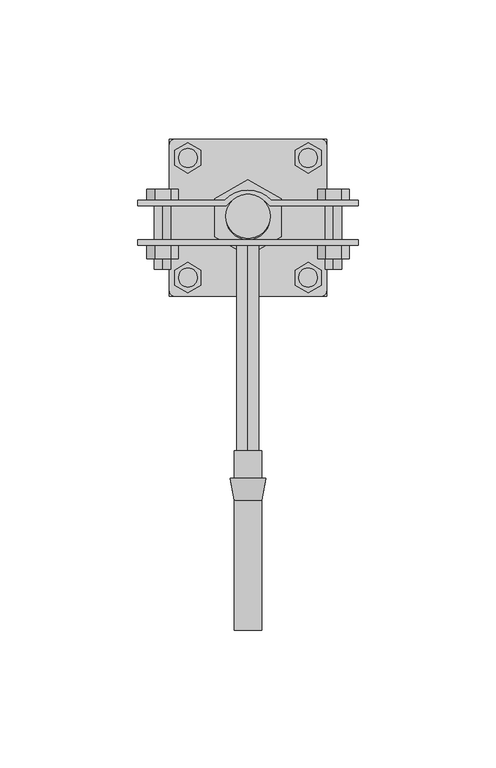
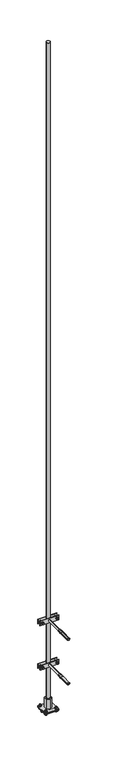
"""IFC4 building model written with IfcOpenShell, lengths in millimetres: proxy geometry, КНС_МолниеприемникСДержателями_DKC : NL7300CU_Медь_3м."""

from ifc_helpers import new_model, si_unit, point, frame, frame_2d, origin, origin_with_axes, place, context, project, spatial, polyline, circle_curve, trimmed, segment, composite_curve, outline, extrude, source, transform, mapped, element, save
from ifc_brep_helpers import plane_surface, cylinder_surface, revolved_surface, advanced_brep


def security_devices_fc05bfcb(model_context):
    return source(origin(), model_context, "Body", "SolidModel", [
        extrude(outline(composite_curve([segment(trimmed(circle_curve(frame_2d((0.0, 84.6885885)), 8.0), [point((0.0, 76.6885885))], [point((0.0, 92.6885885))], False, "CARTESIAN"), True, "CONTINUOUS"), segment(trimmed(circle_curve(frame_2d((0.0, 84.6885885)), 8.0), [point((0.0, 92.6885885))], [point((0.0, 76.6885885))], False, "CARTESIAN"), True, "CONTINUOUS")], self_intersect=False)), frame((0.0, 0.0, 2.5), z_axis=(0.0, 0.0, 1.0), x_axis=(1.0, 0.0, 0.0)), (0.0, 0.0, 1.0), 45.0),
        extrude(outline(composite_curve([segment(polyline([(56.1885885, -3.5), (56.1885885, -1.0), (79.6885885, -1.0)]), True, "CONTINUOUS"), segment(trimmed(circle_curve(frame_2d((84.6885885, -1.0)), 5.0), [point((79.6885885, -1.0))], [point((89.6885885, -1.0))], True, "CARTESIAN"), True, "CONTINUOUS"), segment(polyline([(89.6885885, -1.0), (113.1885885, -1.0), (113.1885885, -3.5), (91.7596563, -3.5)]), True, "CONTINUOUS"), segment(trimmed(circle_curve(frame_2d((84.6885885, -1.0)), 7.5), [point((91.7596563, -3.5))], [point((77.6175207, -3.5))], False, "CARTESIAN"), True, "CONTINUOUS"), segment(polyline([(77.6175207, -3.5), (56.1885885, -3.5)]), True, "CONTINUOUS")], self_intersect=False)), frame((-28.5, 0.0, 0.0), z_axis=(1.0, 0.0, 0.0), x_axis=(0.0, 1.0, 0.0)), (0.0, 0.0, 1.0), 57.0),
        extrude(outline(composite_curve([segment(trimmed(circle_curve(frame_2d((-21.78125, 62.9764828)), 3.4209609), [point((-21.78125, 59.5555219))], [point((-21.78125, 66.3974437))], False, "CARTESIAN"), True, "CONTINUOUS"), segment(trimmed(circle_curve(frame_2d((-21.78125, 62.9764828)), 3.4209609), [point((-21.78125, 66.3974437))], [point((-21.78125, 59.5555219))], False, "CARTESIAN"), True, "CONTINUOUS")], self_intersect=False)), frame((0.0, 0.0, -3.5), z_axis=(0.0, 0.0, 1.0), x_axis=(1.0, 0.0, 0.0)), (0.0, 0.0, 1.0), 13.5),
        extrude(outline(composite_curve([segment(trimmed(circle_curve(frame_2d((-21.78125, 106.4006942)), 3.4209609), [point((-21.78125, 102.9797333))], [point((-21.78125, 109.8216551))], False, "CARTESIAN"), True, "CONTINUOUS"), segment(trimmed(circle_curve(frame_2d((-21.78125, 106.4006942)), 3.4209609), [point((-21.78125, 109.8216551))], [point((-21.78125, 102.9797333))], False, "CARTESIAN"), True, "CONTINUOUS")], self_intersect=False)), frame((0.0, 0.0, -3.5), z_axis=(0.0, 0.0, 1.0), x_axis=(1.0, 0.0, 0.0)), (0.0, 0.0, 1.0), 13.5),
        extrude(outline(composite_curve([segment(trimmed(circle_curve(frame_2d((21.78125, 62.9764828)), 3.4209609), [point((21.78125, 59.5555219))], [point((21.78125, 66.3974437))], False, "CARTESIAN"), True, "CONTINUOUS"), segment(trimmed(circle_curve(frame_2d((21.78125, 62.9764828)), 3.4209609), [point((21.78125, 66.3974437))], [point((21.78125, 59.5555219))], False, "CARTESIAN"), True, "CONTINUOUS")], self_intersect=False)), frame((0.0, 0.0, -3.5), z_axis=(0.0, 0.0, 1.0), x_axis=(1.0, 0.0, 0.0)), (0.0, 0.0, 1.0), 13.5),
        extrude(outline(composite_curve([segment(trimmed(circle_curve(frame_2d((21.78125, 106.4006942)), 3.4209609), [point((21.78125, 102.9797333))], [point((21.78125, 109.8216551))], False, "CARTESIAN"), True, "CONTINUOUS"), segment(trimmed(circle_curve(frame_2d((21.78125, 106.4006942)), 3.4209609), [point((21.78125, 109.8216551))], [point((21.78125, 102.9797333))], False, "CARTESIAN"), True, "CONTINUOUS")], self_intersect=False)), frame((0.0, 0.0, -3.5), z_axis=(0.0, 0.0, 1.0), x_axis=(1.0, 0.0, 0.0)), (0.0, 0.0, 1.0), 13.5),
        extrude(outline(polyline([(-21.8883083, 57.4889661), (-26.6406371, 60.2327244), (-26.6406371, 65.7202411), (-21.8883083, 68.4639995), (-17.1359794, 65.7202411), (-17.1359794, 60.2327244), (-21.8883083, 57.4889661)])), frame((0.0, 0.0, 2.5), z_axis=(0.0, 0.0, 1.0), x_axis=(1.0, 0.0, 0.0)), (0.0, 0.0, 1.0), 5.0),
        extrude(outline(polyline([(-21.8883083, 111.8882109), (-17.1359794, 109.1444525), (-17.1359794, 103.6569358), (-21.8883083, 100.9131775), (-26.6406371, 103.6569358), (-26.6406371, 109.1444525), (-21.8883083, 111.8882109)])), frame((0.0, 0.0, 2.5), z_axis=(0.0, 0.0, 1.0), x_axis=(1.0, 0.0, 0.0)), (0.0, 0.0, 1.0), 5.0),
        extrude(outline(polyline([(21.8883083, 57.4889661), (17.1359794, 60.2327244), (17.1359794, 65.7202411), (21.8883083, 68.4639995), (26.6406371, 65.7202411), (26.6406371, 60.2327244), (21.8883083, 57.4889661)])), frame((0.0, 0.0, 2.5), z_axis=(0.0, 0.0, 1.0), x_axis=(1.0, 0.0, 0.0)), (0.0, 0.0, 1.0), 5.0),
        extrude(outline(polyline([(21.8883083, 111.8882109), (26.6406371, 109.1444525), (26.6406371, 103.6569358), (21.8883083, 100.9131775), (17.1359794, 103.6569358), (17.1359794, 109.1444525), (21.8883083, 111.8882109)])), frame((0.0, 0.0, 2.5), z_axis=(0.0, 0.0, 1.0), x_axis=(1.0, 0.0, 0.0)), (0.0, 0.0, 1.0), 5.0),
        extrude(outline(polyline([(-21.8883083, 57.4889661), (-26.6406371, 60.2327244), (-26.6406371, 65.7202411), (-21.8883083, 68.4639995), (-17.1359794, 65.7202411), (-17.1359794, 60.2327244), (-21.8883083, 57.4889661)])), frame((0.0, 0.0, -8.5), z_axis=(0.0, 0.0, 1.0), x_axis=(1.0, 0.0, 0.0)), (0.0, 0.0, 1.0), 5.0),
        extrude(outline(polyline([(-21.8883083, 111.8882109), (-17.1359794, 109.1444525), (-17.1359794, 103.6569358), (-21.8883083, 100.9131775), (-26.6406371, 103.6569358), (-26.6406371, 109.1444525), (-21.8883083, 111.8882109)])), frame((0.0, 0.0, -8.5), z_axis=(0.0, 0.0, 1.0), x_axis=(1.0, 0.0, 0.0)), (0.0, 0.0, 1.0), 5.0),
        extrude(outline(polyline([(21.8883083, 57.4889661), (17.1359794, 60.2327244), (17.1359794, 65.7202411), (21.8883083, 68.4639995), (26.6406371, 65.7202411), (26.6406371, 60.2327244), (21.8883083, 57.4889661)])), frame((0.0, 0.0, -8.5), z_axis=(0.0, 0.0, 1.0), x_axis=(1.0, 0.0, 0.0)), (0.0, 0.0, 1.0), 5.0),
        extrude(outline(polyline([(21.8883083, 111.8882109), (26.6406371, 109.1444525), (26.6406371, 103.6569358), (21.8883083, 100.9131775), (17.1359794, 103.6569358), (17.1359794, 109.1444525), (21.8883083, 111.8882109)])), frame((0.0, 0.0, -8.5), z_axis=(0.0, 0.0, 1.0), x_axis=(1.0, 0.0, 0.0)), (0.0, 0.0, 1.0), 5.0),
        extrude(outline(composite_curve([segment(trimmed(circle_curve(frame_2d((-26.5, 111.1885885)), 2.0), [point((-28.5, 111.1885885))], [point((-26.5, 113.1885885))], False, "CARTESIAN"), True, "CONTINUOUS"), segment(polyline([(-26.5, 113.1885885), (26.5, 113.1885885)]), True, "CONTINUOUS"), segment(trimmed(circle_curve(frame_2d((26.5, 111.1885885)), 2.0), [point((26.5, 113.1885885))], [point((28.5, 111.1885885))], False, "CARTESIAN"), True, "CONTINUOUS"), segment(polyline([(28.5, 111.1885885), (28.5, 58.1885885)]), True, "CONTINUOUS"), segment(trimmed(circle_curve(frame_2d((26.5, 58.1885885)), 2.0), [point((28.5, 58.1885885))], [point((26.5, 56.1885885))], False, "CARTESIAN"), True, "CONTINUOUS"), segment(polyline([(26.5, 56.1885885), (-26.5, 56.1885885)]), True, "CONTINUOUS"), segment(trimmed(circle_curve(frame_2d((-26.5, 58.1885885)), 2.0), [point((-26.5, 56.1885885))], [point((-28.5, 58.1885885))], False, "CARTESIAN"), True, "CONTINUOUS"), segment(polyline([(-28.5, 58.1885885), (-28.5, 111.1885885)]), True, "CONTINUOUS")], self_intersect=False)), origin_with_axes(), (0.0, 0.0, 1.0), 2.5),
        advanced_brep(
        [(-40.0, 74.6885885, 410.0), (40.0, 74.6885885, 410.0), (40.0, 76.6885885, 410.0), (-40.0, 76.6885885, 410.0), (-40.0, 74.6885885, 390.0), (-40.0, 76.6885885, 390.0), (40.0, 76.6885885, 390.0), (40.0, 74.6885885, 390.0), (0.0, 74.6885885, 404.0), (0.0, 74.6885885, 396.0), (0.0, -65.0, 396.0), (0.0, -65.0, 404.0)],
        [
            (0, 1),
            (1, 2),
            (2, 3),
            (3, 0),
            (4, 5),
            (5, 6),
            (6, 7),
            (7, 4),
            (0, 4),
            (7, 1),
            (8, 9, circle_curve(frame((0.0, 74.6885885, 400.0), z_axis=(0.0, 1.0, 0.0), x_axis=(0.0, 0.0, 1.0)), 4.0)),
            (9, 8, circle_curve(frame((0.0, 74.6885885, 400.0), z_axis=(0.0, 1.0, 0.0), x_axis=(0.0, 0.0, 1.0)), 4.0)),
            (6, 2),
            (5, 3),
            (10, 11, circle_curve(frame((0.0, -65.0, 400.0), z_axis=(0.0, -1.0, 0.0), x_axis=(0.0, 0.0, 1.0)), 4.0)),
            (11, 10, circle_curve(frame((0.0, -65.0, 400.0), z_axis=(0.0, -1.0, 0.0), x_axis=(0.0, 0.0, 1.0)), 4.0)),
            (10, 9),
            (8, 11),
        ],
        [
            plane_surface(frame((-40.0, 74.6885885, 410.0), z_axis=(0.0, 0.0, 1.0), x_axis=(1.0, 0.0, 0.0))),
            plane_surface(frame((-40.0, 74.6885885, 390.0), z_axis=(0.0, 0.0, -1.0), x_axis=(-1.0, 0.0, 0.0))),
            plane_surface(frame((-40.0, 74.6885885, 410.0), z_axis=(0.0, -1.0, 0.0), x_axis=(0.0, 0.0, -1.0))),
            plane_surface(frame((40.0, 74.6885885, 410.0), z_axis=(1.0, 0.0, 0.0), x_axis=(0.0, 0.0, -1.0))),
            plane_surface(frame((40.0, 76.6885885, 410.0), z_axis=(0.0, 1.0, 0.0), x_axis=(0.0, 0.0, -1.0))),
            plane_surface(frame((-40.0, 76.6885885, 410.0), z_axis=(-1.0, 0.0, 0.0), x_axis=(0.0, 0.0, -1.0))),
            plane_surface(frame((0.0, -65.0, 404.0), z_axis=(0.0, -1.0, 0.0), x_axis=(-1.0, 0.0, 0.0))),
            cylinder_surface(frame((0.0, 76.6885885, 400.0), z_axis=(0.0, -1.0, 0.0), x_axis=(0.0, 0.0, 1.0)), 4.0),
        ],
        [
            (0, [[1, 2, 3, 4]]),
            (1, [[5, 6, 7, 8]]),
            (2, [[-1, 9, -8, 10], [11, 12]]),
            (3, [[-2, -10, -7, 13]]),
            (4, [[-3, -13, -6, 14]]),
            (5, [[-4, -14, -5, -9]]),
            (6, [[15, 16]]),
            (7, [[-15, 17, -11, 18]]),
            (7, [[-16, -18, -12, -17]]),
        ],
    ),
        advanced_brep(
        [(6.3810583, -10.0, 400.0), (-6.3810583, -10.0, 400.0), (-5.0, -10.0, 400.0), (5.0, -10.0, 400.0), (5.0, -17.8323707, 400.0), (-5.0, -17.8323707, 400.0), (5.0, -65.0, 400.0), (-5.0, -65.0, 400.0), (3.0, -65.0, 400.0), (-3.0, -65.0, 400.0), (3.0, 0.0, 400.0), (-3.0, 0.0, 400.0), (5.0, 0.0, 400.0), (-5.0, 0.0, 400.0)],
        [
            (0, 1, circle_curve(frame((0.0, -10.0, 400.0), z_axis=(0.0, 1.0, 0.0), x_axis=(-1.0, 0.0, 0.0)), 6.3810583)),
            (1, 2),
            (2, 3, circle_curve(frame((0.0, -10.0, 400.0), z_axis=(0.0, -1.0, 0.0), x_axis=(-1.0, 0.0, 0.0)), 5.0)),
            (3, 0),
            (1, 0, circle_curve(frame((0.0, -10.0, 400.0), z_axis=(0.0, 1.0, 0.0), x_axis=(-1.0, 0.0, 0.0)), 6.3810583)),
            (3, 2, circle_curve(frame((0.0, -10.0, 400.0), z_axis=(0.0, -1.0, 0.0), x_axis=(-1.0, 0.0, 0.0)), 5.0)),
            (4, 5, circle_curve(frame((0.0, -17.8323707, 400.0), z_axis=(0.0, 1.0, 0.0), x_axis=(-1.0, 0.0, 0.0)), 5.0)),
            (5, 1),
            (0, 4),
            (5, 4, circle_curve(frame((0.0, -17.8323707, 400.0), z_axis=(0.0, 1.0, 0.0), x_axis=(-1.0, 0.0, 0.0)), 5.0)),
            (6, 7, circle_curve(frame((0.0, -65.0, 400.0), z_axis=(0.0, 1.0, 0.0), x_axis=(-1.0, 0.0, 0.0)), 5.0)),
            (7, 5),
            (4, 6),
            (7, 6, circle_curve(frame((0.0, -65.0, 400.0), z_axis=(0.0, 1.0, 0.0), x_axis=(-1.0, 0.0, 0.0)), 5.0)),
            (8, 9, circle_curve(frame((0.0, -65.0, 400.0), z_axis=(0.0, 1.0, 0.0), x_axis=(-1.0, 0.0, 0.0)), 3.0)),
            (9, 7),
            (6, 8),
            (9, 8, circle_curve(frame((0.0, -65.0, 400.0), z_axis=(0.0, 1.0, 0.0), x_axis=(-1.0, 0.0, 0.0)), 3.0)),
            (10, 11, circle_curve(frame((0.0, 0.0, 400.0), z_axis=(0.0, 1.0, 0.0), x_axis=(-1.0, 0.0, 0.0)), 3.0)),
            (11, 9),
            (8, 10),
            (11, 10, circle_curve(frame((0.0, 0.0, 400.0), z_axis=(0.0, 1.0, 0.0), x_axis=(-1.0, 0.0, 0.0)), 3.0)),
            (12, 13, circle_curve(frame((0.0, 0.0, 400.0), z_axis=(0.0, 1.0, 0.0), x_axis=(-1.0, 0.0, 0.0)), 5.0)),
            (13, 11),
            (10, 12),
            (13, 12, circle_curve(frame((0.0, 0.0, 400.0), z_axis=(0.0, 1.0, 0.0), x_axis=(-1.0, 0.0, 0.0)), 5.0)),
            (2, 13),
            (12, 3),
        ],
        [
            plane_surface(frame((0.0, -10.0, 400.0), z_axis=(0.0, 1.0, 0.0), x_axis=(-1.0, 0.0, 0.0))),
            revolved_surface(polyline([(-6.3810583, -10.0, 400.0), (-5.0, -17.8323707, 400.0)]), (0.0, 2000.0, 400.0), (0.0, -1.0, 0.0)),
            cylinder_surface(frame((0.0, 2000.0, 400.0), z_axis=(0.0, -1.0, 0.0), x_axis=(-1.0, 0.0, 0.0)), 5.0),
            plane_surface(frame((0.0, -65.0, 400.0), z_axis=(0.0, -1.0, 0.0), x_axis=(-1.0, 0.0, 0.0))),
            revolved_surface(polyline([(-3.0, -65.0, 400.0), (-3.0, 0.0, 400.0)]), (0.0, 2000.0, 400.0), (0.0, -1.0, 0.0)),
            plane_surface(frame((0.0, 0.0, 400.0), z_axis=(0.0, 1.0, 0.0), x_axis=(-1.0, 0.0, 0.0))),
        ],
        [
            (0, [[1, 2, 3, 4]]),
            (0, [[5, -4, 6, -2]]),
            (1, [[7, 8, -1, 9]]),
            (1, [[10, -9, -5, -8]]),
            (2, [[11, 12, -7, 13]]),
            (2, [[14, -13, -10, -12]]),
            (3, [[15, 16, -11, 17]]),
            (3, [[18, -17, -14, -16]]),
            (4, [[19, 20, -15, 21]]),
            (4, [[22, -21, -18, -20]]),
            (5, [[23, 24, -19, 25]]),
            (5, [[26, -25, -22, -24]]),
            (2, [[-3, 27, -23, 28]]),
            (2, [[-6, -28, -26, -27]]),
        ],
    ),
        extrude(outline(polyline([(400.0, 36.7735027), (405.0, 33.8867513), (405.0, 28.1132487), (400.0, 25.2264973), (395.0, 28.1132487), (395.0, 33.8867513), (400.0, 36.7735027)])), frame((0.0, 69.6885885, 0.0), z_axis=(0.0, 1.0, 0.0), x_axis=(0.0, 0.0, 1.0)), (0.0, 0.0, 1.0), 5.0),
        extrude(outline(polyline([(400.0, -25.2264973), (405.0, -28.1132487), (405.0, -33.8867513), (400.0, -36.7735027), (395.0, -33.8867513), (395.0, -28.1132487), (400.0, -25.2264973)])), frame((0.0, 69.6885885, 0.0), z_axis=(0.0, 1.0, 0.0), x_axis=(0.0, 0.0, 1.0)), (0.0, 0.0, 1.0), 5.0),
        extrude(outline(composite_curve([segment(trimmed(circle_curve(frame_2d((400.0, 31.0)), 3.0), [point((397.0, 31.0))], [point((403.0, 31.0))], False, "CARTESIAN"), True, "CONTINUOUS"), segment(trimmed(circle_curve(frame_2d((400.0, 31.0)), 3.0), [point((403.0, 31.0))], [point((397.0, 31.0))], False, "CARTESIAN"), True, "CONTINUOUS")], self_intersect=False)), frame((0.0, 66.0, 0.0), z_axis=(0.0, 1.0, 0.0), x_axis=(0.0, 0.0, 1.0)), (0.0, 0.0, 1.0), 25.0),
        extrude(outline(polyline([(400.0, 36.7735027), (405.0, 33.8867513), (405.0, 28.1132487), (400.0, 25.2264973), (395.0, 28.1132487), (395.0, 33.8867513), (400.0, 36.7735027)])), frame((0.0, 91.0, 0.0), z_axis=(0.0, 1.0, 0.0), x_axis=(0.0, 0.0, 1.0)), (0.0, 0.0, 1.0), 4.0),
        extrude(outline(polyline([(400.0, -25.2264973), (405.0, -28.1132487), (405.0, -33.8867513), (400.0, -36.7735027), (395.0, -33.8867513), (395.0, -28.1132487), (400.0, -25.2264973)])), frame((0.0, 91.0, 0.0), z_axis=(0.0, 1.0, 0.0), x_axis=(0.0, 0.0, 1.0)), (0.0, 0.0, 1.0), 4.0),
        extrude(outline(composite_curve([segment(trimmed(circle_curve(frame_2d((400.0, -31.0)), 3.0), [point((397.0, -31.0))], [point((403.0, -31.0))], False, "CARTESIAN"), True, "CONTINUOUS"), segment(trimmed(circle_curve(frame_2d((400.0, -31.0)), 3.0), [point((403.0, -31.0))], [point((397.0, -31.0))], False, "CARTESIAN"), True, "CONTINUOUS")], self_intersect=False)), frame((0.0, 66.0, 0.0), z_axis=(0.0, 1.0, 0.0), x_axis=(0.0, 0.0, 1.0)), (0.0, 0.0, 1.0), 25.0),
        extrude(outline(composite_curve([segment(trimmed(circle_curve(frame_2d((0.0, 82.8700945)), 11.7620306), [point((-8.5, 91.0))], [point((8.5, 91.0))], False, "CARTESIAN"), True, "CONTINUOUS"), segment(polyline([(8.5, 91.0), (40.0, 91.0), (40.0, 89.0), (7.9035116, 89.0)]), True, "CONTINUOUS"), segment(trimmed(circle_curve(frame_2d((0.0, 82.3768959)), 10.3116926), [point((7.9035116, 89.0))], [point((-7.9035116, 89.0))], True, "CARTESIAN"), True, "CONTINUOUS"), segment(polyline([(-7.9035116, 89.0), (-40.0, 89.0), (-40.0, 91.0), (-8.5, 91.0)]), True, "CONTINUOUS")], self_intersect=False)), frame((0.0, 0.0, 390.0), z_axis=(0.0, 0.0, 1.0), x_axis=(1.0, 0.0, 0.0)), (0.0, 0.0, 1.0), 20.0),
        advanced_brep(
        [(-40.0, 74.6885885, 210.0), (40.0, 74.6885885, 210.0), (40.0, 76.6885885, 210.0), (-40.0, 76.6885885, 210.0), (-40.0, 74.6885885, 190.0), (-40.0, 76.6885885, 190.0), (40.0, 76.6885885, 190.0), (40.0, 74.6885885, 190.0), (0.0, 74.6885885, 204.0), (0.0, 74.6885885, 196.0), (0.0, -65.0, 196.0), (0.0, -65.0, 204.0)],
        [
            (0, 1),
            (1, 2),
            (2, 3),
            (3, 0),
            (4, 5),
            (5, 6),
            (6, 7),
            (7, 4),
            (0, 4),
            (7, 1),
            (8, 9, circle_curve(frame((0.0, 74.6885885, 200.0), z_axis=(0.0, 1.0, 0.0), x_axis=(0.0, 0.0, 1.0)), 4.0)),
            (9, 8, circle_curve(frame((0.0, 74.6885885, 200.0), z_axis=(0.0, 1.0, 0.0), x_axis=(0.0, 0.0, 1.0)), 4.0)),
            (6, 2),
            (5, 3),
            (10, 11, circle_curve(frame((0.0, -65.0, 200.0), z_axis=(0.0, -1.0, 0.0), x_axis=(0.0, 0.0, 1.0)), 4.0)),
            (11, 10, circle_curve(frame((0.0, -65.0, 200.0), z_axis=(0.0, -1.0, 0.0), x_axis=(0.0, 0.0, 1.0)), 4.0)),
            (10, 9),
            (8, 11),
        ],
        [
            plane_surface(frame((-40.0, 74.6885885, 210.0), z_axis=(0.0, 0.0, 1.0), x_axis=(1.0, 0.0, 0.0))),
            plane_surface(frame((-40.0, 74.6885885, 190.0), z_axis=(0.0, 0.0, -1.0), x_axis=(-1.0, 0.0, 0.0))),
            plane_surface(frame((-40.0, 74.6885885, 210.0), z_axis=(0.0, -1.0, 0.0), x_axis=(0.0, 0.0, -1.0))),
            plane_surface(frame((40.0, 74.6885885, 210.0), z_axis=(1.0, 0.0, 0.0), x_axis=(0.0, 0.0, -1.0))),
            plane_surface(frame((40.0, 76.6885885, 210.0), z_axis=(0.0, 1.0, 0.0), x_axis=(0.0, 0.0, -1.0))),
            plane_surface(frame((-40.0, 76.6885885, 210.0), z_axis=(-1.0, 0.0, 0.0), x_axis=(0.0, 0.0, -1.0))),
            plane_surface(frame((0.0, -65.0, 204.0), z_axis=(0.0, -1.0, 0.0), x_axis=(-1.0, 0.0, 0.0))),
            cylinder_surface(frame((0.0, 76.6885885, 200.0), z_axis=(0.0, -1.0, 0.0), x_axis=(0.0, 0.0, 1.0)), 4.0),
        ],
        [
            (0, [[1, 2, 3, 4]]),
            (1, [[5, 6, 7, 8]]),
            (2, [[-1, 9, -8, 10], [11, 12]]),
            (3, [[-2, -10, -7, 13]]),
            (4, [[-3, -13, -6, 14]]),
            (5, [[-4, -14, -5, -9]]),
            (6, [[15, 16]]),
            (7, [[-15, 17, -11, 18]]),
            (7, [[-16, -18, -12, -17]]),
        ],
    ),
        advanced_brep(
        [(6.3810583, -10.0, 200.0), (-6.3810583, -10.0, 200.0), (-5.0, -10.0, 200.0), (5.0, -10.0, 200.0), (5.0, -17.8323707, 200.0), (-5.0, -17.8323707, 200.0), (5.0, -65.0, 200.0), (-5.0, -65.0, 200.0), (3.0, -65.0, 200.0), (-3.0, -65.0, 200.0), (3.0, 0.0, 200.0), (-3.0, 0.0, 200.0), (5.0, 0.0, 200.0), (-5.0, 0.0, 200.0)],
        [
            (0, 1, circle_curve(frame((0.0, -10.0, 200.0), z_axis=(0.0, 1.0, 0.0), x_axis=(-1.0, 0.0, 0.0)), 6.3810583)),
            (1, 2),
            (2, 3, circle_curve(frame((0.0, -10.0, 200.0), z_axis=(0.0, -1.0, 0.0), x_axis=(-1.0, 0.0, 0.0)), 5.0)),
            (3, 0),
            (1, 0, circle_curve(frame((0.0, -10.0, 200.0), z_axis=(0.0, 1.0, 0.0), x_axis=(-1.0, 0.0, 0.0)), 6.3810583)),
            (3, 2, circle_curve(frame((0.0, -10.0, 200.0), z_axis=(0.0, -1.0, 0.0), x_axis=(-1.0, 0.0, 0.0)), 5.0)),
            (4, 5, circle_curve(frame((0.0, -17.8323707, 200.0), z_axis=(0.0, 1.0, 0.0), x_axis=(-1.0, 0.0, 0.0)), 5.0)),
            (5, 1),
            (0, 4),
            (5, 4, circle_curve(frame((0.0, -17.8323707, 200.0), z_axis=(0.0, 1.0, 0.0), x_axis=(-1.0, 0.0, 0.0)), 5.0)),
            (6, 7, circle_curve(frame((0.0, -65.0, 200.0), z_axis=(0.0, 1.0, 0.0), x_axis=(-1.0, 0.0, 0.0)), 5.0)),
            (7, 5),
            (4, 6),
            (7, 6, circle_curve(frame((0.0, -65.0, 200.0), z_axis=(0.0, 1.0, 0.0), x_axis=(-1.0, 0.0, 0.0)), 5.0)),
            (8, 9, circle_curve(frame((0.0, -65.0, 200.0), z_axis=(0.0, 1.0, 0.0), x_axis=(-1.0, 0.0, 0.0)), 3.0)),
            (9, 7),
            (6, 8),
            (9, 8, circle_curve(frame((0.0, -65.0, 200.0), z_axis=(0.0, 1.0, 0.0), x_axis=(-1.0, 0.0, 0.0)), 3.0)),
            (10, 11, circle_curve(frame((0.0, 0.0, 200.0), z_axis=(0.0, 1.0, 0.0), x_axis=(-1.0, 0.0, 0.0)), 3.0)),
            (11, 9),
            (8, 10),
            (11, 10, circle_curve(frame((0.0, 0.0, 200.0), z_axis=(0.0, 1.0, 0.0), x_axis=(-1.0, 0.0, 0.0)), 3.0)),
            (12, 13, circle_curve(frame((0.0, 0.0, 200.0), z_axis=(0.0, 1.0, 0.0), x_axis=(-1.0, 0.0, 0.0)), 5.0)),
            (13, 11),
            (10, 12),
            (13, 12, circle_curve(frame((0.0, 0.0, 200.0), z_axis=(0.0, 1.0, 0.0), x_axis=(-1.0, 0.0, 0.0)), 5.0)),
            (2, 13),
            (12, 3),
        ],
        [
            plane_surface(frame((0.0, -10.0, 200.0), z_axis=(0.0, 1.0, 0.0), x_axis=(-1.0, 0.0, 0.0))),
            revolved_surface(polyline([(-6.3810583, -10.0, 200.0), (-5.0, -17.8323707, 200.0)]), (0.0, 2000.0, 200.0), (0.0, -1.0, 0.0)),
            cylinder_surface(frame((0.0, 2000.0, 200.0), z_axis=(0.0, -1.0, 0.0), x_axis=(-1.0, 0.0, 0.0)), 5.0),
            plane_surface(frame((0.0, -65.0, 200.0), z_axis=(0.0, -1.0, 0.0), x_axis=(-1.0, 0.0, 0.0))),
            revolved_surface(polyline([(-3.0, -65.0, 200.0), (-3.0, 0.0, 200.0)]), (0.0, 2000.0, 200.0), (0.0, -1.0, 0.0)),
            plane_surface(frame((0.0, 0.0, 200.0), z_axis=(0.0, 1.0, 0.0), x_axis=(-1.0, 0.0, 0.0))),
        ],
        [
            (0, [[1, 2, 3, 4]]),
            (0, [[5, -4, 6, -2]]),
            (1, [[7, 8, -1, 9]]),
            (1, [[10, -9, -5, -8]]),
            (2, [[11, 12, -7, 13]]),
            (2, [[14, -13, -10, -12]]),
            (3, [[15, 16, -11, 17]]),
            (3, [[18, -17, -14, -16]]),
            (4, [[19, 20, -15, 21]]),
            (4, [[22, -21, -18, -20]]),
            (5, [[23, 24, -19, 25]]),
            (5, [[26, -25, -22, -24]]),
            (2, [[-3, 27, -23, 28]]),
            (2, [[-6, -28, -26, -27]]),
        ],
    ),
        extrude(outline(polyline([(200.0, 36.7735027), (205.0, 33.8867513), (205.0, 28.1132487), (200.0, 25.2264973), (195.0, 28.1132487), (195.0, 33.8867513), (200.0, 36.7735027)])), frame((0.0, 69.6885885, 0.0), z_axis=(0.0, 1.0, 0.0), x_axis=(0.0, 0.0, 1.0)), (0.0, 0.0, 1.0), 5.0),
        extrude(outline(polyline([(200.0, -25.2264973), (205.0, -28.1132487), (205.0, -33.8867513), (200.0, -36.7735027), (195.0, -33.8867513), (195.0, -28.1132487), (200.0, -25.2264973)])), frame((0.0, 69.6885885, 0.0), z_axis=(0.0, 1.0, 0.0), x_axis=(0.0, 0.0, 1.0)), (0.0, 0.0, 1.0), 5.0),
        extrude(outline(composite_curve([segment(trimmed(circle_curve(frame_2d((200.0, 31.0)), 3.0), [point((197.0, 31.0))], [point((203.0, 31.0))], False, "CARTESIAN"), True, "CONTINUOUS"), segment(trimmed(circle_curve(frame_2d((200.0, 31.0)), 3.0), [point((203.0, 31.0))], [point((197.0, 31.0))], False, "CARTESIAN"), True, "CONTINUOUS")], self_intersect=False)), frame((0.0, 66.0, 0.0), z_axis=(0.0, 1.0, 0.0), x_axis=(0.0, 0.0, 1.0)), (0.0, 0.0, 1.0), 25.0),
        extrude(outline(polyline([(200.0, 36.7735027), (205.0, 33.8867513), (205.0, 28.1132487), (200.0, 25.2264973), (195.0, 28.1132487), (195.0, 33.8867513), (200.0, 36.7735027)])), frame((0.0, 91.0, 0.0), z_axis=(0.0, 1.0, 0.0), x_axis=(0.0, 0.0, 1.0)), (0.0, 0.0, 1.0), 4.0),
        extrude(outline(polyline([(200.0, -25.2264973), (205.0, -28.1132487), (205.0, -33.8867513), (200.0, -36.7735027), (195.0, -33.8867513), (195.0, -28.1132487), (200.0, -25.2264973)])), frame((0.0, 91.0, 0.0), z_axis=(0.0, 1.0, 0.0), x_axis=(0.0, 0.0, 1.0)), (0.0, 0.0, 1.0), 4.0),
        extrude(outline(composite_curve([segment(trimmed(circle_curve(frame_2d((200.0, -31.0)), 3.0), [point((197.0, -31.0))], [point((203.0, -31.0))], False, "CARTESIAN"), True, "CONTINUOUS"), segment(trimmed(circle_curve(frame_2d((200.0, -31.0)), 3.0), [point((203.0, -31.0))], [point((197.0, -31.0))], False, "CARTESIAN"), True, "CONTINUOUS")], self_intersect=False)), frame((0.0, 66.0, 0.0), z_axis=(0.0, 1.0, 0.0), x_axis=(0.0, 0.0, 1.0)), (0.0, 0.0, 1.0), 25.0),
        extrude(outline(composite_curve([segment(trimmed(circle_curve(frame_2d((0.0, 82.8700945)), 11.7620306), [point((-8.5, 91.0))], [point((8.5, 91.0))], False, "CARTESIAN"), True, "CONTINUOUS"), segment(polyline([(8.5, 91.0), (40.0, 91.0), (40.0, 89.0), (7.9035116, 89.0)]), True, "CONTINUOUS"), segment(trimmed(circle_curve(frame_2d((0.0, 82.3768959)), 10.3116926), [point((7.9035116, 89.0))], [point((-7.9035116, 89.0))], True, "CARTESIAN"), True, "CONTINUOUS"), segment(polyline([(-7.9035116, 89.0), (-40.0, 89.0), (-40.0, 91.0), (-8.5, 91.0)]), True, "CONTINUOUS")], self_intersect=False)), frame((0.0, 0.0, 190.0), z_axis=(0.0, 0.0, 1.0), x_axis=(1.0, 0.0, 0.0)), (0.0, 0.0, 1.0), 20.0),
        extrude(outline(polyline([(0.0, 98.5449949), (12.0, 91.6167917), (12.0, 77.7603852), (0.0, 70.832182), (-12.0, 77.7603852), (-12.0, 91.6167917), (0.0, 98.5449949)])), frame((0.0, 0.0, 2.5), z_axis=(0.0, 0.0, 1.0), x_axis=(1.0, 0.0, 0.0)), (0.0, 0.0, 1.0), 45.0),
        extrude(outline(composite_curve([segment(trimmed(circle_curve(frame_2d((0.0, 84.6885885)), 8.0), [point((-8.0, 84.6885885))], [point((8.0, 84.6885885))], False, "CARTESIAN"), True, "CONTINUOUS"), segment(trimmed(circle_curve(frame_2d((0.0, 84.6885885)), 8.0), [point((8.0, 84.6885885))], [point((-8.0, 84.6885885))], False, "CARTESIAN"), True, "CONTINUOUS")], self_intersect=False)), origin_with_axes(), (0.0, 0.0, 1.0), 3000.0),
    ])


if __name__ == "__main__":
    model = new_model("IFC4")
    model_context = context("Model", 3, world=origin())
    ifc_project = project(units=[si_unit("LENGTHUNIT", "METRE", prefix="MILLI")], contexts=[model_context])
    site = spatial("IfcSite", under=ifc_project)
    building = spatial("IfcBuilding", under=site)
    placement = place(None, origin())
    security_devices_shape = security_devices_fc05bfcb(model_context)
    element("IfcBuildingElementProxy", 1, Name="КНС_МолниеприемникСДержателями_DKC : NL7300CU_Медь_3м", ObjectType="КНС_МолниеприемникСДержателями_DKC : NL7300CU_Медь_3м", at=placement, inside=building, context=model_context, shape_type="MappedRepresentation", body=[
        mapped(security_devices_shape, transform((0.0, 0.0, 0.0), x_axis=(1.0, 0.0, 0.0), y_axis=(0.0, 1.0, 0.0), z_axis=(0.0, 0.0, 1.0))),
    ])
    save(model, "model.ifc")
